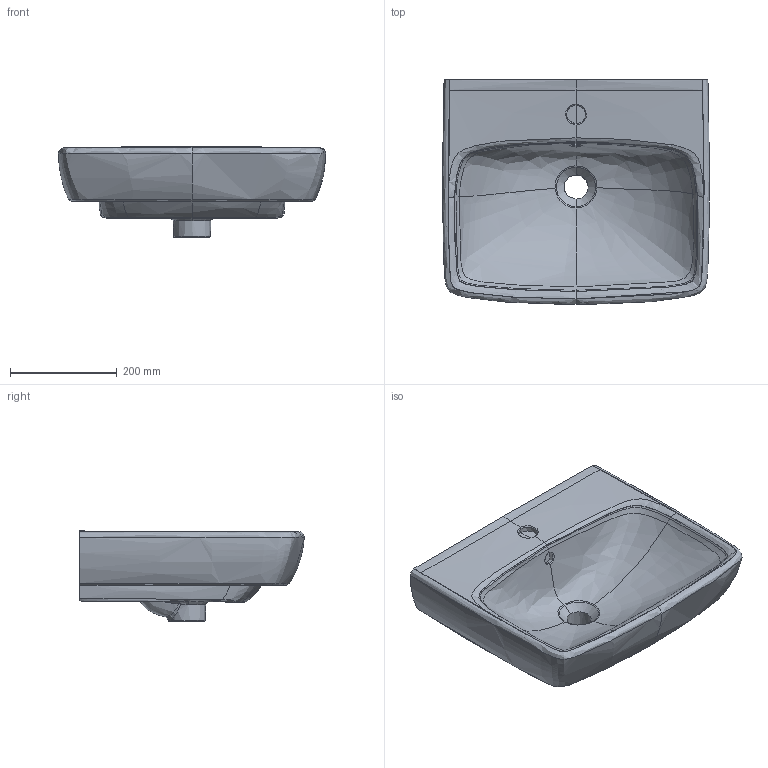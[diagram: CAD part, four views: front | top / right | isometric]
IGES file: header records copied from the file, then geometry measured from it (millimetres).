
Global section: file name: 500310; native system: Autodesk Inventor 2018; preprocessor: unknown; author: JANAN; date: 20200501.052802; units: millimetre
Bounding box: 499.71 x 420.5 x 169.99 mm (x, y, z)
Volume: 13789181.3 mm3; surface area: 658390.2 mm2
Topology: 1 solids, 1 shells, 148 faces, 362 edges, 218 vertices
Faces by surface type: bspline 148
